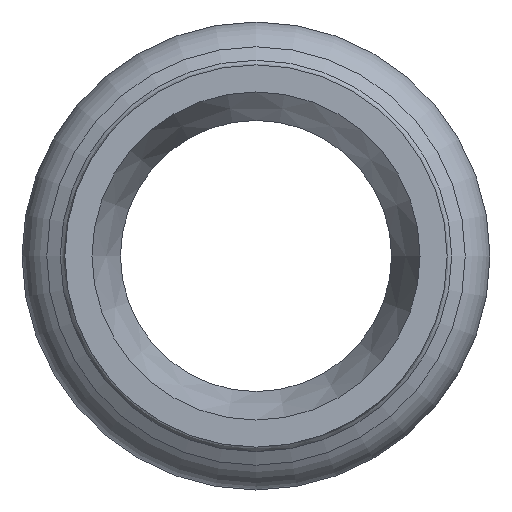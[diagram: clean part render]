
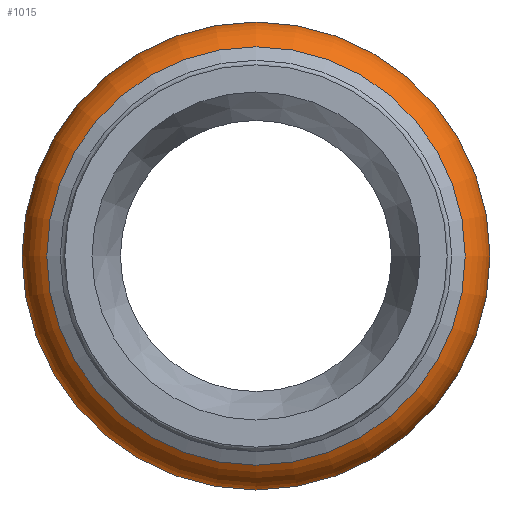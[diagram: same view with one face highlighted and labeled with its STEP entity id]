
A CAD part, left-side view. The second image highlights one B-rep face of the part: STEP entity #1015.
In plain terms, the highlighted toroidal (fillet/blend) face has major radius 10.2 mm and minor radius 2.75 mm.
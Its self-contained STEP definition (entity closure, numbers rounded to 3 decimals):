
#833=CARTESIAN_POINT('',(-53.352,10.94,0.));
#834=VERTEX_POINT('',#833);
#835=CARTESIAN_POINT('',(-53.352,0.,0.0));
#836=DIRECTION('',(1.0,0.0,0.0));
#837=DIRECTION('',(0.0,-1.0,0.0));
#838=AXIS2_PLACEMENT_3D('',#835,#836,#837);
#839=CIRCLE('',#838,10.94);
#840=EDGE_CURVE('',#834,#834,#839,.T.);
#977=CARTESIAN_POINT('',(-58.382,11.575,0.0));
#978=VERTEX_POINT('',#977);
#979=CARTESIAN_POINT('',(-58.382,0.,0.0));
#980=DIRECTION('',(1.0,0.0,0.0));
#981=DIRECTION('',(0.0,1.0,0.0));
#982=AXIS2_PLACEMENT_3D('',#979,#980,#981);
#983=CIRCLE('',#982,11.575);
#984=EDGE_CURVE('',#978,#978,#983,.T.);
#1004=CARTESIAN_POINT('',(-56.0,0.,0.0));
#1005=DIRECTION('',(1.0,0.,0.0));
#1006=DIRECTION('',(0.0,0.0,-1.0));
#1007=AXIS2_PLACEMENT_3D('',#1004,#1005,#1006);
#1008=TOROIDAL_SURFACE('',#1007,10.2,2.75);
#1009=ORIENTED_EDGE('',*,*,#984,.T.);
#1010=EDGE_LOOP('',(#1009));
#1011=FACE_OUTER_BOUND('',#1010,.T.);
#1012=ORIENTED_EDGE('',*,*,#840,.F.);
#1013=EDGE_LOOP('',(#1012));
#1014=FACE_BOUND('',#1013,.T.);
#1015=ADVANCED_FACE('',(#1011,#1014),#1008,.T.);
